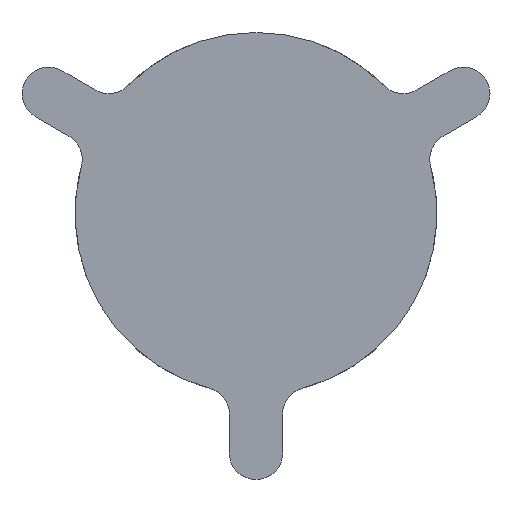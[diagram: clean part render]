
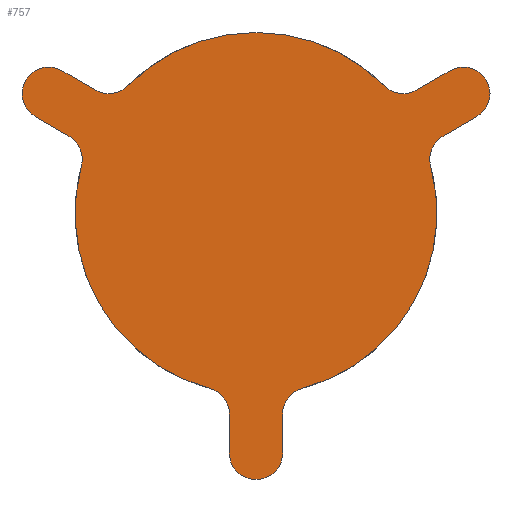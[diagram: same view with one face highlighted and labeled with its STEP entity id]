
A CAD part, front view. The second image highlights one B-rep face of the part: STEP entity #757.
In plain terms, the highlighted planar face has unit normal (0, -1, 0).
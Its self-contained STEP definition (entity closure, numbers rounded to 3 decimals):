
#38=CIRCLE('',#813,0.5);
#40=CIRCLE('',#816,0.5);
#43=CIRCLE('',#820,0.5);
#45=CIRCLE('',#823,0.5);
#47=CIRCLE('',#826,3.4);
#49=CIRCLE('',#828,3.4);
#50=CIRCLE('',#829,3.4);
#52=CIRCLE('',#831,3.4);
#53=CIRCLE('',#834,0.5);
#54=CIRCLE('',#835,0.5);
#55=CIRCLE('',#836,0.5);
#56=CIRCLE('',#837,0.5);
#57=CIRCLE('',#838,0.5);
#75=FACE_OUTER_BOUND('',#121,.T.);
#121=EDGE_LOOP('',(#562,#563,#564,#565,#566,#567,#568,#569,#570,#571,#572,
#573,#574,#575,#576,#577,#578,#579,#580));
#199=LINE('',#1357,#266);
#200=LINE('',#1358,#267);
#201=LINE('',#1359,#268);
#202=LINE('',#1361,#269);
#203=LINE('',#1366,#270);
#204=LINE('',#1370,#271);
#266=VECTOR('',#952,10.);
#267=VECTOR('',#953,10.);
#268=VECTOR('',#954,10.);
#269=VECTOR('',#955,10.);
#270=VECTOR('',#960,10.);
#271=VECTOR('',#963,10.);
#329=VERTEX_POINT('',#1231);
#330=VERTEX_POINT('',#1232);
#333=VERTEX_POINT('',#1240);
#334=VERTEX_POINT('',#1241);
#339=VERTEX_POINT('',#1252);
#340=VERTEX_POINT('',#1254);
#343=VERTEX_POINT('',#1261);
#344=VERTEX_POINT('',#1263);
#347=VERTEX_POINT('',#1270);
#348=VERTEX_POINT('',#1272);
#350=VERTEX_POINT('',#1277);
#352=VERTEX_POINT('',#1283);
#353=VERTEX_POINT('',#1285);
#361=VERTEX_POINT('',#1356);
#362=VERTEX_POINT('',#1360);
#363=VERTEX_POINT('',#1363);
#364=VERTEX_POINT('',#1365);
#365=VERTEX_POINT('',#1367);
#366=VERTEX_POINT('',#1369);
#406=EDGE_CURVE('',#329,#330,#38,.F.);
#410=EDGE_CURVE('',#333,#334,#40,.F.);
#416=EDGE_CURVE('',#340,#339,#43,.T.);
#420=EDGE_CURVE('',#344,#343,#45,.T.);
#424=EDGE_CURVE('',#347,#348,#47,.T.);
#427=EDGE_CURVE('',#344,#350,#49,.T.);
#429=EDGE_CURVE('',#350,#339,#50,.T.);
#432=EDGE_CURVE('',#352,#353,#52,.T.);
#441=EDGE_CURVE('',#329,#361,#199,.F.);
#442=EDGE_CURVE('',#340,#330,#200,.F.);
#443=EDGE_CURVE('',#333,#343,#201,.F.);
#444=EDGE_CURVE('',#362,#334,#202,.F.);
#445=EDGE_CURVE('',#362,#348,#53,.T.);
#446=EDGE_CURVE('',#347,#363,#54,.T.);
#447=EDGE_CURVE('',#364,#363,#203,.F.);
#448=EDGE_CURVE('',#364,#365,#55,.F.);
#449=EDGE_CURVE('',#366,#365,#204,.F.);
#450=EDGE_CURVE('',#366,#353,#56,.T.);
#451=EDGE_CURVE('',#352,#361,#57,.T.);
#562=ORIENTED_EDGE('',*,*,#441,.F.);
#563=ORIENTED_EDGE('',*,*,#406,.T.);
#564=ORIENTED_EDGE('',*,*,#442,.F.);
#565=ORIENTED_EDGE('',*,*,#416,.T.);
#566=ORIENTED_EDGE('',*,*,#429,.F.);
#567=ORIENTED_EDGE('',*,*,#427,.F.);
#568=ORIENTED_EDGE('',*,*,#420,.T.);
#569=ORIENTED_EDGE('',*,*,#443,.F.);
#570=ORIENTED_EDGE('',*,*,#410,.T.);
#571=ORIENTED_EDGE('',*,*,#444,.F.);
#572=ORIENTED_EDGE('',*,*,#445,.T.);
#573=ORIENTED_EDGE('',*,*,#424,.F.);
#574=ORIENTED_EDGE('',*,*,#446,.T.);
#575=ORIENTED_EDGE('',*,*,#447,.F.);
#576=ORIENTED_EDGE('',*,*,#448,.T.);
#577=ORIENTED_EDGE('',*,*,#449,.F.);
#578=ORIENTED_EDGE('',*,*,#450,.T.);
#579=ORIENTED_EDGE('',*,*,#432,.F.);
#580=ORIENTED_EDGE('',*,*,#451,.T.);
#728=PLANE('',#833);
#757=ADVANCED_FACE('',(#75),#728,.F.);
#813=AXIS2_PLACEMENT_3D('',#1233,#894,#895);
#816=AXIS2_PLACEMENT_3D('',#1242,#902,#903);
#820=AXIS2_PLACEMENT_3D('',#1255,#913,#914);
#823=AXIS2_PLACEMENT_3D('',#1264,#921,#922);
#826=AXIS2_PLACEMENT_3D('',#1273,#929,#930);
#828=AXIS2_PLACEMENT_3D('',#1278,#934,#935);
#829=AXIS2_PLACEMENT_3D('',#1280,#937,#938);
#831=AXIS2_PLACEMENT_3D('',#1286,#942,#943);
#833=AXIS2_PLACEMENT_3D('',#1355,#950,#951);
#834=AXIS2_PLACEMENT_3D('',#1362,#956,#957);
#835=AXIS2_PLACEMENT_3D('',#1364,#958,#959);
#836=AXIS2_PLACEMENT_3D('',#1368,#961,#962);
#837=AXIS2_PLACEMENT_3D('',#1371,#964,#965);
#838=AXIS2_PLACEMENT_3D('',#1372,#966,#967);
#894=DIRECTION('center_axis',(0.,1.,0.));
#895=DIRECTION('ref_axis',(0.,0.,1.));
#902=DIRECTION('center_axis',(0.,1.,0.));
#903=DIRECTION('ref_axis',(0.,0.,1.));
#913=DIRECTION('center_axis',(0.,1.,0.));
#914=DIRECTION('ref_axis',(0.,0.,-1.));
#921=DIRECTION('center_axis',(0.,1.,0.));
#922=DIRECTION('ref_axis',(0.,0.,-1.));
#929=DIRECTION('center_axis',(0.,1.,0.));
#930=DIRECTION('ref_axis',(0.,0.,-1.));
#934=DIRECTION('center_axis',(0.,1.,0.));
#935=DIRECTION('ref_axis',(0.,0.,-1.));
#937=DIRECTION('center_axis',(0.,1.,0.));
#938=DIRECTION('ref_axis',(0.,0.,-1.));
#942=DIRECTION('center_axis',(0.,1.,0.));
#943=DIRECTION('ref_axis',(0.,0.,-1.));
#950=DIRECTION('center_axis',(0.,1.,0.));
#951=DIRECTION('ref_axis',(0.,0.,1.));
#952=DIRECTION('',(0.866,0.,0.5));
#953=DIRECTION('',(-0.866,0.,-0.5));
#954=DIRECTION('',(-0.866,0.,0.5));
#955=DIRECTION('',(0.866,0.,-0.5));
#956=DIRECTION('center_axis',(0.,1.,0.));
#957=DIRECTION('ref_axis',(0.,0.,-1.));
#958=DIRECTION('center_axis',(0.,1.,0.));
#959=DIRECTION('ref_axis',(0.,0.,-1.));
#960=DIRECTION('',(0.,0.,-1.));
#961=DIRECTION('center_axis',(0.,1.,0.));
#962=DIRECTION('ref_axis',(0.,0.,1.));
#963=DIRECTION('',(0.,0.,1.));
#964=DIRECTION('center_axis',(0.,1.,0.));
#965=DIRECTION('ref_axis',(0.,0.,-1.));
#966=DIRECTION('center_axis',(0.,1.,0.));
#967=DIRECTION('ref_axis',(0.,0.,-1.));
#1231=CARTESIAN_POINT('',(4.147,0.3,1.817));
#1232=CARTESIAN_POINT('',(3.647,0.3,2.683));
#1233=CARTESIAN_POINT('Origin',(3.897,0.3,2.25));
#1240=CARTESIAN_POINT('',(-3.647,0.3,2.683));
#1241=CARTESIAN_POINT('',(-4.147,0.3,1.817));
#1242=CARTESIAN_POINT('Origin',(-3.897,0.3,2.25));
#1252=CARTESIAN_POINT('',(2.41,0.3,2.398));
#1254=CARTESIAN_POINT('',(3.015,0.3,2.318));
#1255=CARTESIAN_POINT('Origin',(2.765,0.3,2.751));
#1261=CARTESIAN_POINT('',(-3.015,0.3,2.318));
#1263=CARTESIAN_POINT('',(-2.41,0.3,2.398));
#1264=CARTESIAN_POINT('Origin',(-2.765,0.3,2.751));
#1270=CARTESIAN_POINT('',(-0.872,0.3,-3.286));
#1272=CARTESIAN_POINT('',(-3.282,0.3,0.888));
#1273=CARTESIAN_POINT('Origin',(0.,0.3,0.));
#1277=CARTESIAN_POINT('',(0.,0.3,3.4));
#1278=CARTESIAN_POINT('Origin',(0.,0.3,0.));
#1280=CARTESIAN_POINT('Origin',(0.,0.3,0.));
#1283=CARTESIAN_POINT('',(3.282,0.3,0.888));
#1285=CARTESIAN_POINT('',(0.872,0.3,-3.286));
#1286=CARTESIAN_POINT('Origin',(0.,0.3,0.));
#1355=CARTESIAN_POINT('Origin',(0.,0.3,0.));
#1356=CARTESIAN_POINT('',(3.515,0.3,1.452));
#1357=CARTESIAN_POINT('',(2.199,0.3,0.692));
#1358=CARTESIAN_POINT('',(1.699,0.3,1.558));
#1359=CARTESIAN_POINT('',(-1.699,0.3,1.558));
#1360=CARTESIAN_POINT('',(-3.515,0.3,1.452));
#1361=CARTESIAN_POINT('',(-2.199,0.3,0.692));
#1362=CARTESIAN_POINT('Origin',(-3.765,0.3,1.019));
#1363=CARTESIAN_POINT('',(-0.5,0.3,-3.77));
#1364=CARTESIAN_POINT('Origin',(-1.,0.3,-3.77));
#1365=CARTESIAN_POINT('',(-0.5,0.3,-4.5));
#1366=CARTESIAN_POINT('',(-0.5,0.3,-2.25));
#1367=CARTESIAN_POINT('',(0.5,0.3,-4.5));
#1368=CARTESIAN_POINT('Origin',(0.,0.3,-4.5));
#1369=CARTESIAN_POINT('',(0.5,0.3,-3.77));
#1370=CARTESIAN_POINT('',(0.5,0.3,-2.25));
#1371=CARTESIAN_POINT('Origin',(1.,0.3,-3.77));
#1372=CARTESIAN_POINT('Origin',(3.765,0.3,1.019));
